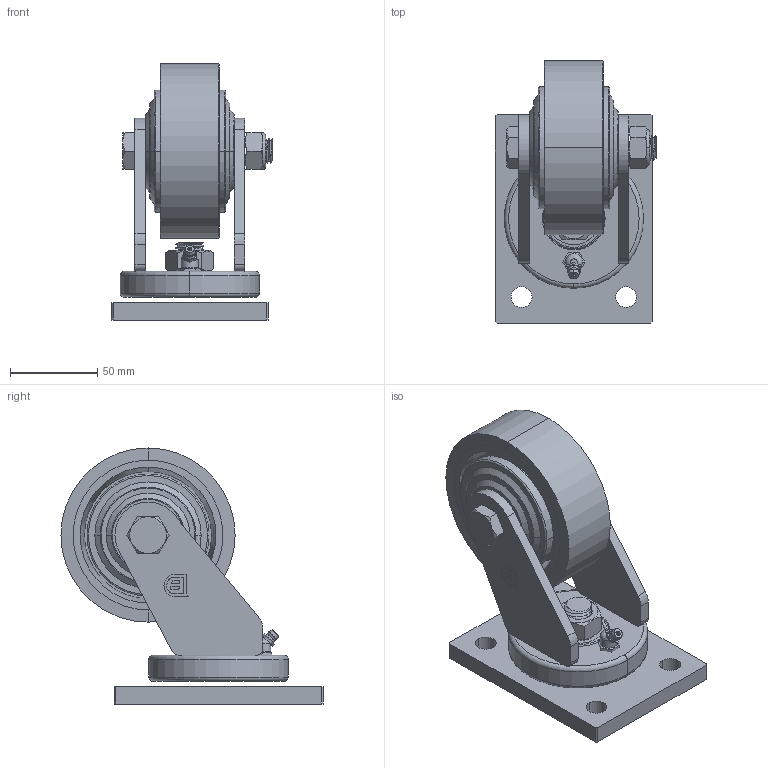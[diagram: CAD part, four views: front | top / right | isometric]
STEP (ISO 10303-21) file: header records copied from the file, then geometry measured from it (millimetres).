
FILE_DESCRIPTION((''),'2;1');
FILE_NAME('3D4BHUODONGPUPM','2024-12-24T14:02:17',('Administrator'),(''),'CREO PARAMETRIC BY PTC INC, 2022124','CREO PARAMETRIC BY PTC INC, 2022124','');
FILE_SCHEMA(('CONFIG_CONTROL_DESIGN','GEOMETRIC_VALIDATION_PROPERTIES_MIM'));
Length unit declared in the file: millimetre
Products named in the file (1): 3D4BHUODONGPUPM
Bounding box: 92.5 x 150.5 x 147 mm (x, y, z)
Surface area: 119209 mm2 (no closed solid volume)
Topology: 0 solids, 24 shells, 263 faces, 722 edges, 504 vertices
Faces by surface type: plane 92, cylinder 80, cone 58, torus 28, bspline 5
Entity records: 12584 total; most frequent: CARTESIAN_POINT 4273, DIRECTION 1282, ORIENTED_EDGE 1235, EDGE_CURVE 722, AXIS2_PLACEMENT_3D 515, VERTEX_POINT 504, EDGE_LOOP 315, FACE_OUTER_BOUND 263
